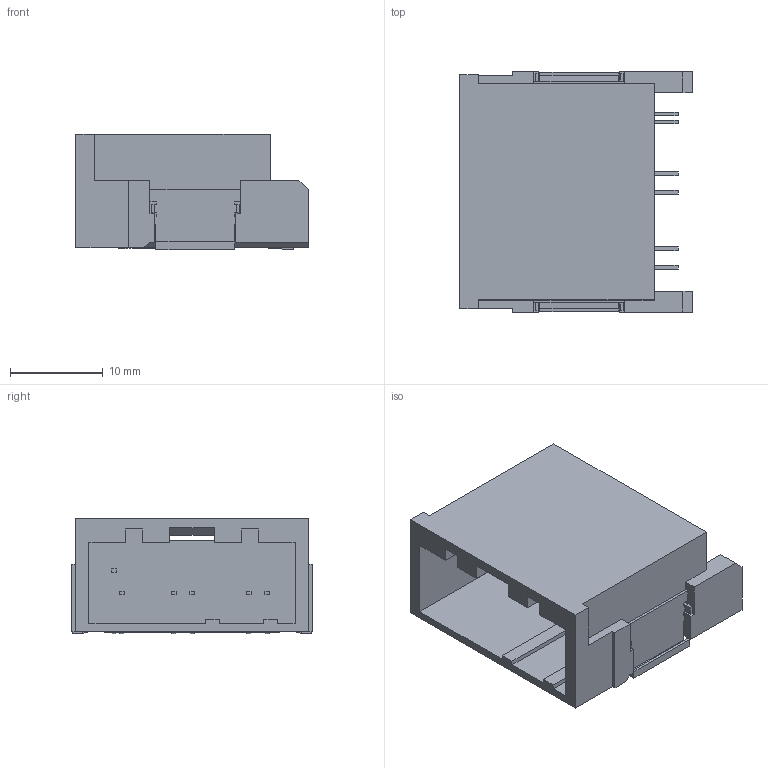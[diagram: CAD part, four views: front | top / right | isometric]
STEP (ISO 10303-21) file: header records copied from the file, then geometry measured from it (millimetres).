
FILE_DESCRIPTION(('CATIA V5 STEP','CAx-IF Rec.Pracs.--- Model Styling and Organization---1.5--- 2016-08-15','CAx-IF Rec.Pracs.---Supplemental Geometry---1.0---2011-11-01','CAx-IF Rec.Pracs.--- Composite Materials ---1.1---2010-07-15'),'2;1');
FILE_NAME('\\fss02.ad.sws.co.jp\fs100070\事務・購入\特命業務\特-35ｰ部品総合カタログメンテナンス\26年度\WEBカタログ用3D\260612_webカタログ新規登録用簡易3D\モデル保存場所\HFD-U2シリーズ\6910-9029.stp','2026-06-25T09:12:13+00:00',('none'),('none'),'CATIA Version 5-6 Release 2021 SP5 HF44','CATIA V5 STEP AP214 v2','none');
FILE_SCHEMA(('AUTOMOTIVE_DESIGN { 1 0 10303 214 1 1 1 1 }'));
Length unit declared in the file: millimetre
Products named in the file (1): 6910-9029
Bounding box: 25.1 x 25.95 x 12.51 mm (x, y, z)
Volume: 3303.1 mm3; surface area: 3705.4 mm2
Topology: 1 solids, 1 shells, 229 faces, 648 edges, 430 vertices
Faces by surface type: plane 229
Entity records: 7016 total; most frequent: ORIENTED_EDGE 1296, CARTESIAN_POINT 1204, DIRECTION 898, VECTOR 648, EDGE_CURVE 648, LINE 648, VERTEX_POINT 430, EDGE_LOOP 240
